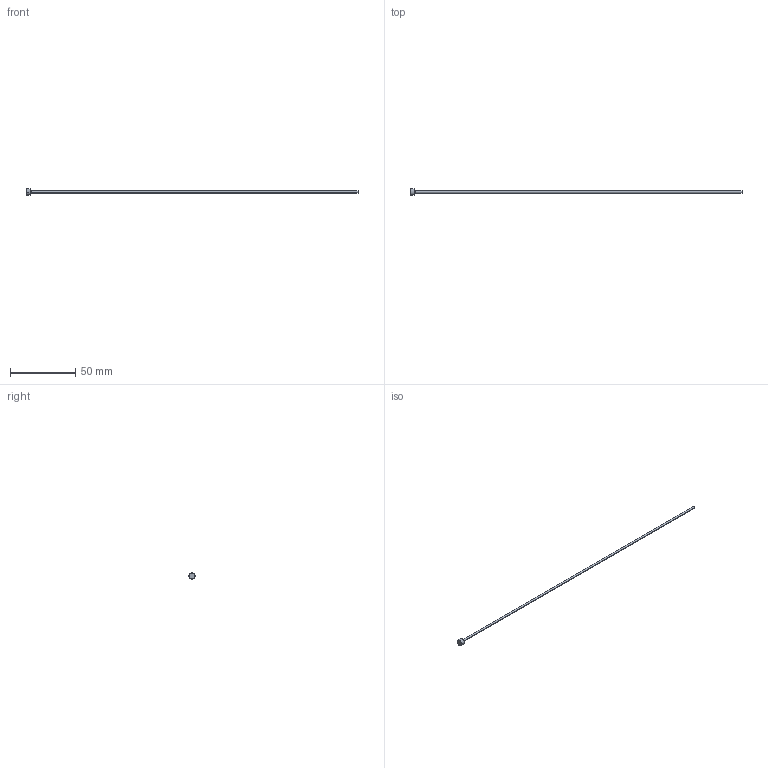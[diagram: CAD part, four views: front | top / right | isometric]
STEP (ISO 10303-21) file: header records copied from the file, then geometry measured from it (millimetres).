
FILE_DESCRIPTION (( 'STEP AP214' ), '1' );
FILE_NAME ('P5-10.STEP', '2020-03-11T16:12:54', ( '' ), ( '' ), 'SwSTEP 2.0', 'SolidWorks 2018', '' );
FILE_SCHEMA (( 'AUTOMOTIVE_DESIGN' ));
Length unit declared in the file: inch
Products named in the file (1): P5-10
Bounding box: 254 x 4.76 x 4.76 mm (x, y, z)
Volume: 548.9 mm3; surface area: 1324.9 mm2
Topology: 1 solids, 1 shells, 13 faces, 24 edges, 14 vertices
Faces by surface type: cone 4, cylinder 4, plane 3, torus 2
Entity records: 366 total; most frequent: DIRECTION 68, CARTESIAN_POINT 52, ORIENTED_EDGE 48, AXIS2_PLACEMENT_3D 30, EDGE_CURVE 24, CIRCLE 16, EDGE_LOOP 14, VERTEX_POINT 14
